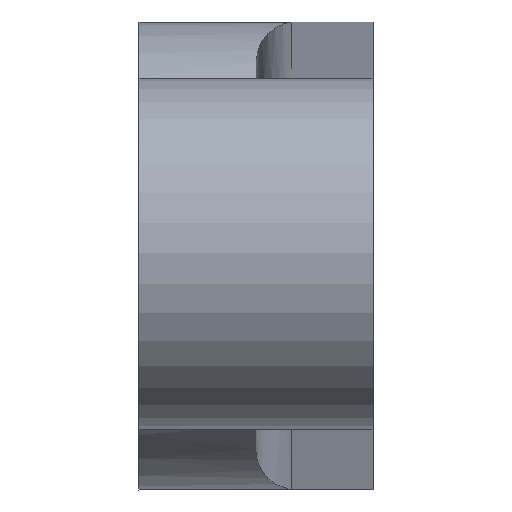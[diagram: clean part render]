
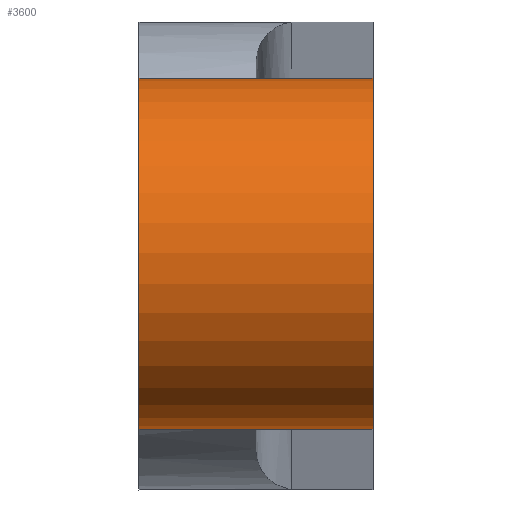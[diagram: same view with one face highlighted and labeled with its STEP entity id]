
A CAD part, top view. The second image highlights one B-rep face of the part: STEP entity #3600.
In plain terms, the highlighted cylindrical face has radius 15 mm (diameter 30 mm), a full revolution.
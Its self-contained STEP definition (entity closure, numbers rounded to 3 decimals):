
#18=CYLINDRICAL_SURFACE('',#3751,15.);
#19=CIRCLE('',#3723,15.);
#24=CIRCLE('',#3752,15.);
#25=CIRCLE('',#3753,15.);
#26=CIRCLE('',#3754,15.);
#158=B_SPLINE_CURVE_WITH_KNOTS('',3,(#6404,#6405,#6406,#6407,#6408,#6409,
#6410,#6411,#6412,#6413,#6414,#6415,#6416,#6417,#6418,#6419,#6420,#6421),
 .UNSPECIFIED.,.F.,.F.,(4,2,2,2,2,2,2,2,4),(-0.913,-0.639,
-0.366,-0.229,-0.091,-0.023,
-0.011,-0.006,0.),.UNSPECIFIED.);
#159=B_SPLINE_CURVE_WITH_KNOTS('',3,(#6430,#6431,#6432,#6433,#6434,#6435,
#6436,#6437,#6438,#6439,#6440,#6441,#6442,#6443,#6444,#6445,#6446,#6447,
#6448,#6449),.UNSPECIFIED.,.F.,.F.,(4,2,2,2,2,2,2,2,2,4),(0.,0.009,
0.017,0.035,0.09,0.145,
0.33,0.514,0.808,0.915),
 .UNSPECIFIED.);
#402=FACE_OUTER_BOUND('',#605,.T.);
#605=EDGE_LOOP('',(#3253,#3254,#3255,#3256,#3257,#3258,#3259,#3260,#3261,
#3262));
#996=LINE('',#6427,#1388);
#998=LINE('',#6462,#1390);
#1002=LINE('',#6477,#1394);
#1388=VECTOR('',#4398,10.);
#1390=VECTOR('',#4404,10.);
#1394=VECTOR('',#4422,15.);
#1699=VERTEX_POINT('',#6306);
#1701=VERTEX_POINT('',#6309);
#1729=VERTEX_POINT('',#6402);
#1731=VERTEX_POINT('',#6425);
#1732=VERTEX_POINT('',#6429);
#1734=VERTEX_POINT('',#6461);
#1737=VERTEX_POINT('',#6474);
#1738=VERTEX_POINT('',#6476);
#2196=EDGE_CURVE('',#1701,#1699,#19,.T.);
#2238=EDGE_CURVE('',#1729,#1699,#158,.F.);
#2241=EDGE_CURVE('',#1729,#1731,#996,.T.);
#2242=EDGE_CURVE('',#1701,#1732,#159,.F.);
#2245=EDGE_CURVE('',#1734,#1732,#998,.T.);
#2251=EDGE_CURVE('',#1737,#1731,#24,.T.);
#2252=EDGE_CURVE('',#1737,#1738,#1002,.T.);
#2253=EDGE_CURVE('',#1738,#1738,#25,.T.);
#2254=EDGE_CURVE('',#1734,#1737,#26,.T.);
#3253=ORIENTED_EDGE('',*,*,#2241,.T.);
#3254=ORIENTED_EDGE('',*,*,#2251,.F.);
#3255=ORIENTED_EDGE('',*,*,#2252,.T.);
#3256=ORIENTED_EDGE('',*,*,#2253,.T.);
#3257=ORIENTED_EDGE('',*,*,#2252,.F.);
#3258=ORIENTED_EDGE('',*,*,#2254,.F.);
#3259=ORIENTED_EDGE('',*,*,#2245,.T.);
#3260=ORIENTED_EDGE('',*,*,#2242,.F.);
#3261=ORIENTED_EDGE('',*,*,#2196,.T.);
#3262=ORIENTED_EDGE('',*,*,#2238,.F.);
#3600=ADVANCED_FACE('',(#402),#18,.T.);
#3723=AXIS2_PLACEMENT_3D('',#6310,#4316,#4317);
#3751=AXIS2_PLACEMENT_3D('',#6473,#4418,#4419);
#3752=AXIS2_PLACEMENT_3D('',#6475,#4420,#4421);
#3753=AXIS2_PLACEMENT_3D('',#6478,#4423,#4424);
#3754=AXIS2_PLACEMENT_3D('',#6479,#4425,#4426);
#4316=DIRECTION('center_axis',(-1.,0.,0.));
#4317=DIRECTION('ref_axis',(0.,0.,-1.));
#4398=DIRECTION('',(1.,0.,0.));
#4404=DIRECTION('',(-1.,0.,0.));
#4418=DIRECTION('center_axis',(1.,0.,0.));
#4419=DIRECTION('ref_axis',(0.,0.,-1.));
#4420=DIRECTION('center_axis',(1.,0.,0.));
#4421=DIRECTION('ref_axis',(0.,0.,-1.));
#4422=DIRECTION('',(-1.,0.,0.));
#4423=DIRECTION('center_axis',(1.,0.,0.));
#4424=DIRECTION('ref_axis',(0.,0.,-1.));
#4425=DIRECTION('center_axis',(1.,0.,0.));
#4426=DIRECTION('ref_axis',(0.,0.,-1.));
#6306=CARTESIAN_POINT('',(10.,-12.368,106.512));
#6309=CARTESIAN_POINT('',(10.,12.368,106.512));
#6310=CARTESIAN_POINT('Origin',(10.,0.,115.));
#6402=CARTESIAN_POINT('',(13.,-15.,115.));
#6404=CARTESIAN_POINT('Ctrl Pts',(10.,-12.368,106.512));
#6405=CARTESIAN_POINT('Ctrl Pts',(10.,-12.883,107.263));
#6406=CARTESIAN_POINT('Ctrl Pts',(10.153,-13.36,108.114));
#6407=CARTESIAN_POINT('Ctrl Pts',(10.631,-14.126,109.866));
#6408=CARTESIAN_POINT('Ctrl Pts',(10.955,-14.415,110.766));
#6409=CARTESIAN_POINT('Ctrl Pts',(11.447,-14.705,112.009));
#6410=CARTESIAN_POINT('Ctrl Pts',(11.638,-14.792,112.467));
#6411=CARTESIAN_POINT('Ctrl Pts',(12.036,-14.92,113.382));
#6412=CARTESIAN_POINT('Ctrl Pts',(12.242,-14.961,113.839));
#6413=CARTESIAN_POINT('Ctrl Pts',(12.548,-14.991,114.453));
#6414=CARTESIAN_POINT('Ctrl Pts',(12.666,-14.998,114.7));
#6415=CARTESIAN_POINT('Ctrl Pts',(12.836,-15.,114.906));
#6416=CARTESIAN_POINT('Ctrl Pts',(12.864,-15.,114.936));
#6417=CARTESIAN_POINT('Ctrl Pts',(12.912,-15.,114.972));
#6418=CARTESIAN_POINT('Ctrl Pts',(12.928,-15.,114.982));
#6419=CARTESIAN_POINT('Ctrl Pts',(12.963,-15.,114.996));
#6420=CARTESIAN_POINT('Ctrl Pts',(12.981,-15.,115.));
#6421=CARTESIAN_POINT('Ctrl Pts',(13.,-15.,115.));
#6425=CARTESIAN_POINT('',(20.,-15.,115.));
#6427=CARTESIAN_POINT('',(0.,-15.,115.));
#6429=CARTESIAN_POINT('',(13.,15.,115.));
#6430=CARTESIAN_POINT('Ctrl Pts',(13.,15.,115.));
#6431=CARTESIAN_POINT('Ctrl Pts',(12.971,15.,115.));
#6432=CARTESIAN_POINT('Ctrl Pts',(12.946,15.,114.991));
#6433=CARTESIAN_POINT('Ctrl Pts',(12.899,15.,114.964));
#6434=CARTESIAN_POINT('Ctrl Pts',(12.878,15.,114.946));
#6435=CARTESIAN_POINT('Ctrl Pts',(12.815,15.,114.885));
#6436=CARTESIAN_POINT('Ctrl Pts',(12.778,14.999,114.834));
#6437=CARTESIAN_POINT('Ctrl Pts',(12.642,14.996,114.634));
#6438=CARTESIAN_POINT('Ctrl Pts',(12.55,14.991,114.456));
#6439=CARTESIAN_POINT('Ctrl Pts',(12.37,14.974,114.097));
#6440=CARTESIAN_POINT('Ctrl Pts',(12.284,14.962,113.914));
#6441=CARTESIAN_POINT('Ctrl Pts',(11.948,14.901,113.192));
#6442=CARTESIAN_POINT('Ctrl Pts',(11.681,14.816,112.576));
#6443=CARTESIAN_POINT('Ctrl Pts',(11.181,14.562,111.348));
#6444=CARTESIAN_POINT('Ctrl Pts',(10.949,14.393,110.736));
#6445=CARTESIAN_POINT('Ctrl Pts',(10.459,13.905,109.298));
#6446=CARTESIAN_POINT('Ctrl Pts',(10.19,13.484,108.348));
#6447=CARTESIAN_POINT('Ctrl Pts',(10.025,12.776,107.132));
#6448=CARTESIAN_POINT('Ctrl Pts',(10.,12.576,106.816));
#6449=CARTESIAN_POINT('Ctrl Pts',(10.,12.368,106.512));
#6461=CARTESIAN_POINT('',(20.,15.,115.));
#6462=CARTESIAN_POINT('',(0.,15.,115.));
#6473=CARTESIAN_POINT('Origin',(0.,0.,115.));
#6474=CARTESIAN_POINT('',(20.,0.,130.));
#6475=CARTESIAN_POINT('Origin',(20.,0.,115.));
#6476=CARTESIAN_POINT('',(0.,0.,130.));
#6477=CARTESIAN_POINT('',(0.,0.,130.));
#6478=CARTESIAN_POINT('Origin',(0.,0.,115.));
#6479=CARTESIAN_POINT('Origin',(20.,0.,115.));
